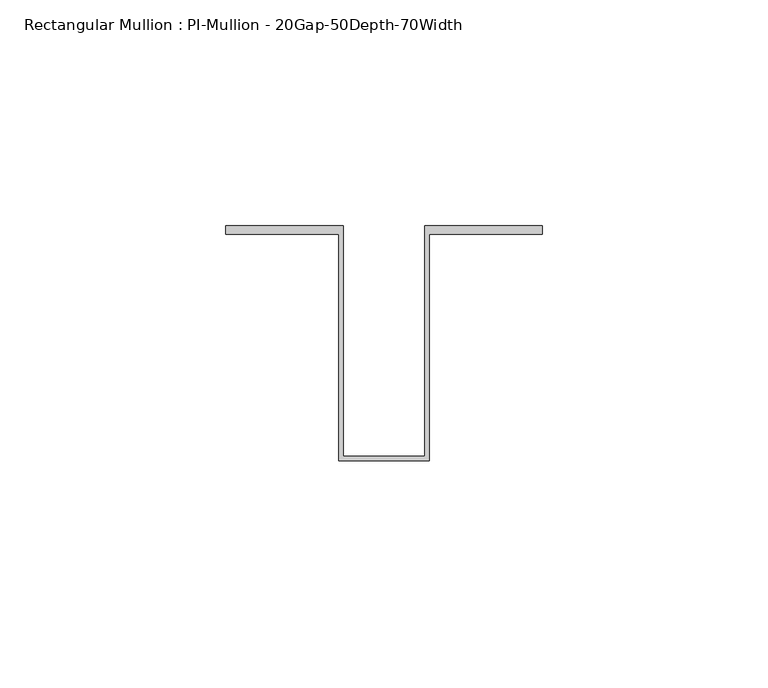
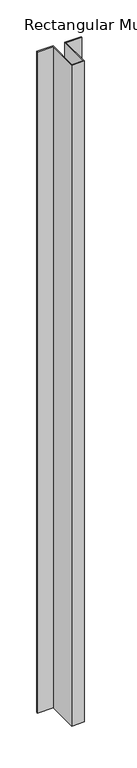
"""IFC4 building model written with IfcOpenShell, lengths in millimetres: member geometry, Rectangular Mullion : PI-Mullion - 20Gap-50Depth-70Width."""

from ifc_helpers import new_model, si_unit, frame, origin, place, context, project, spatial, polyline, outline, extrude, source, transform, mapped, element, save


def rectangular_mullion_pi_mullion_20gap_50depth_70width_d86b8fff(model_context):
    return source(origin(), model_context, "Body", "SweptSolid", [
        extrude(outline(polyline([(10.0, 0.2), (10.0, -50.0), (-10.0, -50.0), (-10.0, 0.2), (-35.0, 0.2), (-35.0, 2.0), (-9.0, 2.0), (-9.0, -49.0), (9.0, -49.0), (9.0, 2.0), (35.0, 2.0), (35.0, 0.2), (10.0, 0.2)])), frame((0.0, 0.0, -1100.0), z_axis=(0.0, 0.0, 1.0), x_axis=(1.0, 0.0, 0.0)), (0.0, 0.0, 1.0), 1100.0),
    ])


if __name__ == "__main__":
    model = new_model("IFC4")
    model_context = context("Model", 3, world=origin())
    ifc_project = project(units=[si_unit("LENGTHUNIT", "METRE", prefix="MILLI")], contexts=[model_context])
    site = spatial("IfcSite", under=ifc_project)
    building = spatial("IfcBuilding", under=site)
    placement = place(None, origin())
    rectangular_mullion_pi_mullion_20gap_50depth_70width_shape = rectangular_mullion_pi_mullion_20gap_50depth_70width_d86b8fff(model_context)
    element("IfcMember", 1, ObjectType="Rectangular Mullion : PI-Mullion - 20Gap-50Depth-70Width", at=placement, inside=building, context=model_context, shape_type="MappedRepresentation", body=[
        mapped(rectangular_mullion_pi_mullion_20gap_50depth_70width_shape, transform((0.0, 0.0, 0.0), x_axis=(1.0, 0.0, 0.0), y_axis=(0.0, 1.0, 0.0), z_axis=(0.0, 0.0, 1.0))),
    ])
    save(model, "model.ifc")
